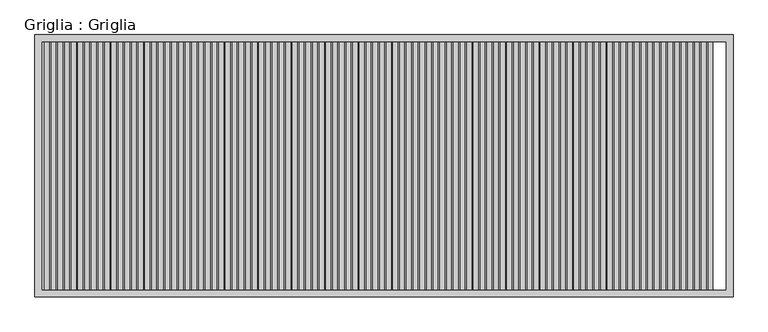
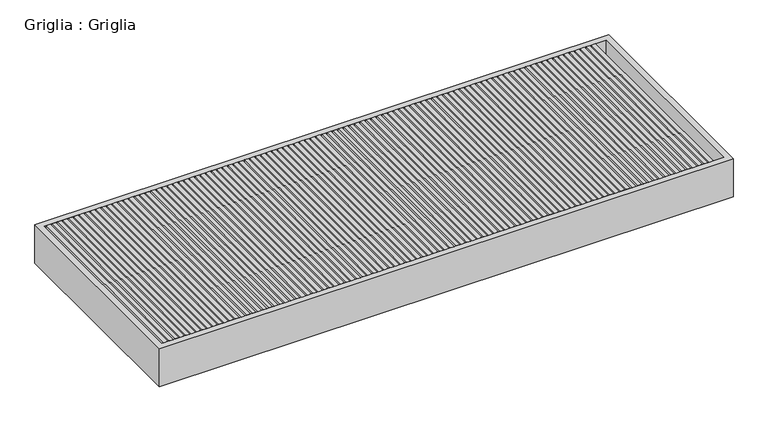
"""IFC4 building model written with IfcOpenShell, lengths in millimetres: proxy geometry, Griglia : Griglia."""

from ifc_helpers import new_model, si_unit, frame, origin, place, context, project, spatial, polyline, outline, extrude, source, transform, mapped, element, save


def griglia_griglia_b5ae9a58(model_context):
    return source(origin(), model_context, "Body", "SweptSolid", [
        extrude(outline(polyline([(-5124.9074903, 5643.2328473), (-5124.9074903, 4603.2328473), (-5144.9074903, 4603.2328473), (-5144.9074903, 5643.2328473), (-5124.9074903, 5643.2328473)])), frame((0.0, 0.0, -840.0), z_axis=(0.0, 0.0, 1.0), x_axis=(1.0, 0.0, 0.0)), (0.0, 0.0, 1.0), 40.0),
        extrude(outline(polyline([(-5152.9882983, 5643.2328473), (-5152.9882983, 4603.2328473), (-5172.9882983, 4603.2328473), (-5172.9882983, 5643.2328473), (-5152.9882983, 5643.2328473)])), frame((0.0, 0.0, -840.0), z_axis=(0.0, 0.0, 1.0), x_axis=(1.0, 0.0, 0.0)), (0.0, 0.0, 1.0), 40.0),
        extrude(outline(polyline([(-5181.0691064, 5643.2328473), (-5181.0691064, 4603.2328473), (-5201.0691064, 4603.2328473), (-5201.0691064, 5643.2328473), (-5181.0691064, 5643.2328473)])), frame((0.0, 0.0, -840.0), z_axis=(0.0, 0.0, 1.0), x_axis=(1.0, 0.0, 0.0)), (0.0, 0.0, 1.0), 40.0),
        extrude(outline(polyline([(-5209.1499145, 5643.2328473), (-5209.1499145, 4603.2328473), (-5229.1499145, 4603.2328473), (-5229.1499145, 5643.2328473), (-5209.1499145, 5643.2328473)])), frame((0.0, 0.0, -840.0), z_axis=(0.0, 0.0, 1.0), x_axis=(1.0, 0.0, 0.0)), (0.0, 0.0, 1.0), 40.0),
        extrude(outline(polyline([(-5237.2307226, 5643.2328473), (-5237.2307226, 4603.2328473), (-5257.2307226, 4603.2328473), (-5257.2307226, 5643.2328473), (-5237.2307226, 5643.2328473)])), frame((0.0, 0.0, -840.0), z_axis=(0.0, 0.0, 1.0), x_axis=(1.0, 0.0, 0.0)), (0.0, 0.0, 1.0), 40.0),
        extrude(outline(polyline([(-5265.3115307, 5643.2328473), (-5265.3115307, 4603.2328473), (-5285.3115307, 4603.2328473), (-5285.3115307, 5643.2328473), (-5265.3115307, 5643.2328473)])), frame((0.0, 0.0, -840.0), z_axis=(0.0, 0.0, 1.0), x_axis=(1.0, 0.0, 0.0)), (0.0, 0.0, 1.0), 40.0),
        extrude(outline(polyline([(-5293.3923387, 5643.2328473), (-5293.3923387, 4603.2328473), (-5313.3923387, 4603.2328473), (-5313.3923387, 5643.2328473), (-5293.3923387, 5643.2328473)])), frame((0.0, 0.0, -840.0), z_axis=(0.0, 0.0, 1.0), x_axis=(1.0, 0.0, 0.0)), (0.0, 0.0, 1.0), 40.0),
        extrude(outline(polyline([(-5321.4731468, 5643.2328473), (-5321.4731468, 4603.2328473), (-5341.4731468, 4603.2328473), (-5341.4731468, 5643.2328473), (-5321.4731468, 5643.2328473)])), frame((0.0, 0.0, -840.0), z_axis=(0.0, 0.0, 1.0), x_axis=(1.0, 0.0, 0.0)), (0.0, 0.0, 1.0), 40.0),
        extrude(outline(polyline([(-5349.5539549, 5643.2328473), (-5349.5539549, 4603.2328473), (-5369.5539549, 4603.2328473), (-5369.5539549, 5643.2328473), (-5349.5539549, 5643.2328473)])), frame((0.0, 0.0, -840.0), z_axis=(0.0, 0.0, 1.0), x_axis=(1.0, 0.0, 0.0)), (0.0, 0.0, 1.0), 40.0),
        extrude(outline(polyline([(-5377.634763, 5643.2328473), (-5377.634763, 4603.2328473), (-5397.634763, 4603.2328473), (-5397.634763, 5643.2328473), (-5377.634763, 5643.2328473)])), frame((0.0, 0.0, -840.0), z_axis=(0.0, 0.0, 1.0), x_axis=(1.0, 0.0, 0.0)), (0.0, 0.0, 1.0), 40.0),
        extrude(outline(polyline([(-5405.7155711, 5643.2328473), (-5405.7155711, 4603.2328473), (-5425.7155711, 4603.2328473), (-5425.7155711, 5643.2328473), (-5405.7155711, 5643.2328473)])), frame((0.0, 0.0, -840.0), z_axis=(0.0, 0.0, 1.0), x_axis=(1.0, 0.0, 0.0)), (0.0, 0.0, 1.0), 40.0),
        extrude(outline(polyline([(-5433.7963791, 5643.2328473), (-5433.7963791, 4603.2328473), (-5453.7963791, 4603.2328473), (-5453.7963791, 5643.2328473), (-5433.7963791, 5643.2328473)])), frame((0.0, 0.0, -840.0), z_axis=(0.0, 0.0, 1.0), x_axis=(1.0, 0.0, 0.0)), (0.0, 0.0, 1.0), 40.0),
        extrude(outline(polyline([(-5461.8771872, 5643.2328473), (-5461.8771872, 4603.2328473), (-5481.8771872, 4603.2328473), (-5481.8771872, 5643.2328473), (-5461.8771872, 5643.2328473)])), frame((0.0, 0.0, -840.0), z_axis=(0.0, 0.0, 1.0), x_axis=(1.0, 0.0, 0.0)), (0.0, 0.0, 1.0), 40.0),
        extrude(outline(polyline([(-5489.9579953, 5643.2328473), (-5489.9579953, 4603.2328473), (-5509.9579953, 4603.2328473), (-5509.9579953, 5643.2328473), (-5489.9579953, 5643.2328473)])), frame((0.0, 0.0, -840.0), z_axis=(0.0, 0.0, 1.0), x_axis=(1.0, 0.0, 0.0)), (0.0, 0.0, 1.0), 40.0),
        extrude(outline(polyline([(-5518.0388034, 5643.2328473), (-5518.0388034, 4603.2328473), (-5538.0388034, 4603.2328473), (-5538.0388034, 5643.2328473), (-5518.0388034, 5643.2328473)])), frame((0.0, 0.0, -840.0), z_axis=(0.0, 0.0, 1.0), x_axis=(1.0, 0.0, 0.0)), (0.0, 0.0, 1.0), 40.0),
        extrude(outline(polyline([(-5546.1196115, 5643.2328473), (-5546.1196115, 4603.2328473), (-5566.1196115, 4603.2328473), (-5566.1196115, 5643.2328473), (-5546.1196115, 5643.2328473)])), frame((0.0, 0.0, -840.0), z_axis=(0.0, 0.0, 1.0), x_axis=(1.0, 0.0, 0.0)), (0.0, 0.0, 1.0), 40.0),
        extrude(outline(polyline([(-5574.2004195, 5643.2328473), (-5574.2004195, 4603.2328473), (-5594.2004195, 4603.2328473), (-5594.2004195, 5643.2328473), (-5574.2004195, 5643.2328473)])), frame((0.0, 0.0, -840.0), z_axis=(0.0, 0.0, 1.0), x_axis=(1.0, 0.0, 0.0)), (0.0, 0.0, 1.0), 40.0),
        extrude(outline(polyline([(-5602.2812276, 5643.2328473), (-5602.2812276, 4603.2328473), (-5622.2812276, 4603.2328473), (-5622.2812276, 5643.2328473), (-5602.2812276, 5643.2328473)])), frame((0.0, 0.0, -840.0), z_axis=(0.0, 0.0, 1.0), x_axis=(1.0, 0.0, 0.0)), (0.0, 0.0, 1.0), 40.0),
        extrude(outline(polyline([(-5630.3620357, 5643.2328473), (-5630.3620357, 4603.2328473), (-5650.3620357, 4603.2328473), (-5650.3620357, 5643.2328473), (-5630.3620357, 5643.2328473)])), frame((0.0, 0.0, -840.0), z_axis=(0.0, 0.0, 1.0), x_axis=(1.0, 0.0, 0.0)), (0.0, 0.0, 1.0), 40.0),
        extrude(outline(polyline([(-5658.4428438, 5643.2328473), (-5658.4428438, 4603.2328473), (-5678.4428438, 4603.2328473), (-5678.4428438, 5643.2328473), (-5658.4428438, 5643.2328473)])), frame((0.0, 0.0, -840.0), z_axis=(0.0, 0.0, 1.0), x_axis=(1.0, 0.0, 0.0)), (0.0, 0.0, 1.0), 40.0),
        extrude(outline(polyline([(-5686.5236519, 5643.2328473), (-5686.5236519, 4603.2328473), (-5706.5236519, 4603.2328473), (-5706.5236519, 5643.2328473), (-5686.5236519, 5643.2328473)])), frame((0.0, 0.0, -840.0), z_axis=(0.0, 0.0, 1.0), x_axis=(1.0, 0.0, 0.0)), (0.0, 0.0, 1.0), 40.0),
        extrude(outline(polyline([(-5714.60446, 5643.2328473), (-5714.60446, 4603.2328473), (-5734.60446, 4603.2328473), (-5734.60446, 5643.2328473), (-5714.60446, 5643.2328473)])), frame((0.0, 0.0, -840.0), z_axis=(0.0, 0.0, 1.0), x_axis=(1.0, 0.0, 0.0)), (0.0, 0.0, 1.0), 40.0),
        extrude(outline(polyline([(-5742.685268, 5643.2328473), (-5742.685268, 4603.2328473), (-5762.685268, 4603.2328473), (-5762.685268, 5643.2328473), (-5742.685268, 5643.2328473)])), frame((0.0, 0.0, -840.0), z_axis=(0.0, 0.0, 1.0), x_axis=(1.0, 0.0, 0.0)), (0.0, 0.0, 1.0), 40.0),
        extrude(outline(polyline([(-5770.7660761, 5643.2328473), (-5770.7660761, 4603.2328473), (-5790.7660761, 4603.2328473), (-5790.7660761, 5643.2328473), (-5770.7660761, 5643.2328473)])), frame((0.0, 0.0, -840.0), z_axis=(0.0, 0.0, 1.0), x_axis=(1.0, 0.0, 0.0)), (0.0, 0.0, 1.0), 40.0),
        extrude(outline(polyline([(-5798.8468842, 5643.2328473), (-5798.8468842, 4603.2328473), (-5818.8468842, 4603.2328473), (-5818.8468842, 5643.2328473), (-5798.8468842, 5643.2328473)])), frame((0.0, 0.0, -840.0), z_axis=(0.0, 0.0, 1.0), x_axis=(1.0, 0.0, 0.0)), (0.0, 0.0, 1.0), 40.0),
        extrude(outline(polyline([(-5826.9276923, 5643.2328473), (-5826.9276923, 4603.2328473), (-5846.9276923, 4603.2328473), (-5846.9276923, 5643.2328473), (-5826.9276923, 5643.2328473)])), frame((0.0, 0.0, -840.0), z_axis=(0.0, 0.0, 1.0), x_axis=(1.0, 0.0, 0.0)), (0.0, 0.0, 1.0), 40.0),
        extrude(outline(polyline([(-5855.0085004, 5643.2328473), (-5855.0085004, 4603.2328473), (-5875.0085004, 4603.2328473), (-5875.0085004, 5643.2328473), (-5855.0085004, 5643.2328473)])), frame((0.0, 0.0, -840.0), z_axis=(0.0, 0.0, 1.0), x_axis=(1.0, 0.0, 0.0)), (0.0, 0.0, 1.0), 40.0),
        extrude(outline(polyline([(-5883.0893084, 5643.2328473), (-5883.0893084, 4603.2328473), (-5903.0893084, 4603.2328473), (-5903.0893084, 5643.2328473), (-5883.0893084, 5643.2328473)])), frame((0.0, 0.0, -840.0), z_axis=(0.0, 0.0, 1.0), x_axis=(1.0, 0.0, 0.0)), (0.0, 0.0, 1.0), 40.0),
        extrude(outline(polyline([(-5911.1701165, 5643.2328473), (-5911.1701165, 4603.2328473), (-5931.1701165, 4603.2328473), (-5931.1701165, 5643.2328473), (-5911.1701165, 5643.2328473)])), frame((0.0, 0.0, -840.0), z_axis=(0.0, 0.0, 1.0), x_axis=(1.0, 0.0, 0.0)), (0.0, 0.0, 1.0), 40.0),
        extrude(outline(polyline([(-5939.2509246, 5643.2328473), (-5939.2509246, 4603.2328473), (-5959.2509246, 4603.2328473), (-5959.2509246, 5643.2328473), (-5939.2509246, 5643.2328473)])), frame((0.0, 0.0, -840.0), z_axis=(0.0, 0.0, 1.0), x_axis=(1.0, 0.0, 0.0)), (0.0, 0.0, 1.0), 40.0),
        extrude(outline(polyline([(-5967.3317327, 5643.2328473), (-5967.3317327, 4603.2328473), (-5987.3317327, 4603.2328473), (-5987.3317327, 5643.2328473), (-5967.3317327, 5643.2328473)])), frame((0.0, 0.0, -840.0), z_axis=(0.0, 0.0, 1.0), x_axis=(1.0, 0.0, 0.0)), (0.0, 0.0, 1.0), 40.0),
        extrude(outline(polyline([(-5995.4125408, 5643.2328473), (-5995.4125408, 4603.2328473), (-6015.4125408, 4603.2328473), (-6015.4125408, 5643.2328473), (-5995.4125408, 5643.2328473)])), frame((0.0, 0.0, -840.0), z_axis=(0.0, 0.0, 1.0), x_axis=(1.0, 0.0, 0.0)), (0.0, 0.0, 1.0), 40.0),
        extrude(outline(polyline([(-6023.4933488, 5643.2328473), (-6023.4933488, 4603.2328473), (-6043.4933488, 4603.2328473), (-6043.4933488, 5643.2328473), (-6023.4933488, 5643.2328473)])), frame((0.0, 0.0, -840.0), z_axis=(0.0, 0.0, 1.0), x_axis=(1.0, 0.0, 0.0)), (0.0, 0.0, 1.0), 40.0),
        extrude(outline(polyline([(-6051.5741569, 5643.2328473), (-6051.5741569, 4603.2328473), (-6071.5741569, 4603.2328473), (-6071.5741569, 5643.2328473), (-6051.5741569, 5643.2328473)])), frame((0.0, 0.0, -840.0), z_axis=(0.0, 0.0, 1.0), x_axis=(1.0, 0.0, 0.0)), (0.0, 0.0, 1.0), 40.0),
        extrude(outline(polyline([(-6079.654965, 5643.2328473), (-6079.654965, 4603.2328473), (-6099.654965, 4603.2328473), (-6099.654965, 5643.2328473), (-6079.654965, 5643.2328473)])), frame((0.0, 0.0, -840.0), z_axis=(0.0, 0.0, 1.0), x_axis=(1.0, 0.0, 0.0)), (0.0, 0.0, 1.0), 40.0),
        extrude(outline(polyline([(-6107.7357731, 5643.2328473), (-6107.7357731, 4603.2328473), (-6127.7357731, 4603.2328473), (-6127.7357731, 5643.2328473), (-6107.7357731, 5643.2328473)])), frame((0.0, 0.0, -840.0), z_axis=(0.0, 0.0, 1.0), x_axis=(1.0, 0.0, 0.0)), (0.0, 0.0, 1.0), 40.0),
        extrude(outline(polyline([(-6135.8165812, 5643.2328473), (-6135.8165812, 4603.2328473), (-6155.8165812, 4603.2328473), (-6155.8165812, 5643.2328473), (-6135.8165812, 5643.2328473)])), frame((0.0, 0.0, -840.0), z_axis=(0.0, 0.0, 1.0), x_axis=(1.0, 0.0, 0.0)), (0.0, 0.0, 1.0), 40.0),
        extrude(outline(polyline([(-6163.8973892, 5643.2328473), (-6163.8973892, 4603.2328473), (-6183.8973892, 4603.2328473), (-6183.8973892, 5643.2328473), (-6163.8973892, 5643.2328473)])), frame((0.0, 0.0, -840.0), z_axis=(0.0, 0.0, 1.0), x_axis=(1.0, 0.0, 0.0)), (0.0, 0.0, 1.0), 40.0),
        extrude(outline(polyline([(-6191.9781973, 5643.2328473), (-6191.9781973, 4603.2328473), (-6211.9781973, 4603.2328473), (-6211.9781973, 5643.2328473), (-6191.9781973, 5643.2328473)])), frame((0.0, 0.0, -840.0), z_axis=(0.0, 0.0, 1.0), x_axis=(1.0, 0.0, 0.0)), (0.0, 0.0, 1.0), 40.0),
        extrude(outline(polyline([(-6220.0590054, 5643.2328473), (-6220.0590054, 4603.2328473), (-6240.0590054, 4603.2328473), (-6240.0590054, 5643.2328473), (-6220.0590054, 5643.2328473)])), frame((0.0, 0.0, -840.0), z_axis=(0.0, 0.0, 1.0), x_axis=(1.0, 0.0, 0.0)), (0.0, 0.0, 1.0), 40.0),
        extrude(outline(polyline([(-6248.1398135, 5643.2328473), (-6248.1398135, 4603.2328473), (-6268.1398135, 4603.2328473), (-6268.1398135, 5643.2328473), (-6248.1398135, 5643.2328473)])), frame((0.0, 0.0, -840.0), z_axis=(0.0, 0.0, 1.0), x_axis=(1.0, 0.0, 0.0)), (0.0, 0.0, 1.0), 40.0),
        extrude(outline(polyline([(-6276.2206216, 5643.2328473), (-6276.2206216, 4603.2328473), (-6296.2206216, 4603.2328473), (-6296.2206216, 5643.2328473), (-6276.2206216, 5643.2328473)])), frame((0.0, 0.0, -840.0), z_axis=(0.0, 0.0, 1.0), x_axis=(1.0, 0.0, 0.0)), (0.0, 0.0, 1.0), 40.0),
        extrude(outline(polyline([(-6304.3014297, 5643.2328473), (-6304.3014297, 4603.2328473), (-6324.3014297, 4603.2328473), (-6324.3014297, 5643.2328473), (-6304.3014297, 5643.2328473)])), frame((0.0, 0.0, -840.0), z_axis=(0.0, 0.0, 1.0), x_axis=(1.0, 0.0, 0.0)), (0.0, 0.0, 1.0), 40.0),
        extrude(outline(polyline([(-6332.3822377, 5643.2328473), (-6332.3822377, 4603.2328473), (-6352.3822377, 4603.2328473), (-6352.3822377, 5643.2328473), (-6332.3822377, 5643.2328473)])), frame((0.0, 0.0, -840.0), z_axis=(0.0, 0.0, 1.0), x_axis=(1.0, 0.0, 0.0)), (0.0, 0.0, 1.0), 40.0),
        extrude(outline(polyline([(-6360.4630458, 5643.2328473), (-6360.4630458, 4603.2328473), (-6380.4630458, 4603.2328473), (-6380.4630458, 5643.2328473), (-6360.4630458, 5643.2328473)])), frame((0.0, 0.0, -840.0), z_axis=(0.0, 0.0, 1.0), x_axis=(1.0, 0.0, 0.0)), (0.0, 0.0, 1.0), 40.0),
        extrude(outline(polyline([(-6388.5438539, 5643.2328473), (-6388.5438539, 4603.2328473), (-6408.5438539, 4603.2328473), (-6408.5438539, 5643.2328473), (-6388.5438539, 5643.2328473)])), frame((0.0, 0.0, -840.0), z_axis=(0.0, 0.0, 1.0), x_axis=(1.0, 0.0, 0.0)), (0.0, 0.0, 1.0), 40.0),
        extrude(outline(polyline([(-6416.624662, 5643.2328473), (-6416.624662, 4603.2328473), (-6436.624662, 4603.2328473), (-6436.624662, 5643.2328473), (-6416.624662, 5643.2328473)])), frame((0.0, 0.0, -840.0), z_axis=(0.0, 0.0, 1.0), x_axis=(1.0, 0.0, 0.0)), (0.0, 0.0, 1.0), 40.0),
        extrude(outline(polyline([(-6444.7054701, 5643.2328473), (-6444.7054701, 4603.2328473), (-6464.7054701, 4603.2328473), (-6464.7054701, 5643.2328473), (-6444.7054701, 5643.2328473)])), frame((0.0, 0.0, -840.0), z_axis=(0.0, 0.0, 1.0), x_axis=(1.0, 0.0, 0.0)), (0.0, 0.0, 1.0), 40.0),
        extrude(outline(polyline([(-6472.7862781, 5643.2328473), (-6472.7862781, 4603.2328473), (-6492.7862781, 4603.2328473), (-6492.7862781, 5643.2328473), (-6472.7862781, 5643.2328473)])), frame((0.0, 0.0, -840.0), z_axis=(0.0, 0.0, 1.0), x_axis=(1.0, 0.0, 0.0)), (0.0, 0.0, 1.0), 40.0),
        extrude(outline(polyline([(-6500.8670862, 5643.2328473), (-6500.8670862, 4603.2328473), (-6520.8670862, 4603.2328473), (-6520.8670862, 5643.2328473), (-6500.8670862, 5643.2328473)])), frame((0.0, 0.0, -840.0), z_axis=(0.0, 0.0, 1.0), x_axis=(1.0, 0.0, 0.0)), (0.0, 0.0, 1.0), 40.0),
        extrude(outline(polyline([(-6528.9478943, 5643.2328473), (-6528.9478943, 4603.2328473), (-6548.9478943, 4603.2328473), (-6548.9478943, 5643.2328473), (-6528.9478943, 5643.2328473)])), frame((0.0, 0.0, -840.0), z_axis=(0.0, 0.0, 1.0), x_axis=(1.0, 0.0, 0.0)), (0.0, 0.0, 1.0), 40.0),
        extrude(outline(polyline([(-6557.0287024, 5643.2328473), (-6557.0287024, 4603.2328473), (-6577.0287024, 4603.2328473), (-6577.0287024, 5643.2328473), (-6557.0287024, 5643.2328473)])), frame((0.0, 0.0, -840.0), z_axis=(0.0, 0.0, 1.0), x_axis=(1.0, 0.0, 0.0)), (0.0, 0.0, 1.0), 40.0),
        extrude(outline(polyline([(-6585.1095105, 5643.2328473), (-6585.1095105, 4603.2328473), (-6605.1095105, 4603.2328473), (-6605.1095105, 5643.2328473), (-6585.1095105, 5643.2328473)])), frame((0.0, 0.0, -840.0), z_axis=(0.0, 0.0, 1.0), x_axis=(1.0, 0.0, 0.0)), (0.0, 0.0, 1.0), 40.0),
        extrude(outline(polyline([(-6613.1903185, 5643.2328473), (-6613.1903185, 4603.2328473), (-6633.1903185, 4603.2328473), (-6633.1903185, 5643.2328473), (-6613.1903185, 5643.2328473)])), frame((0.0, 0.0, -840.0), z_axis=(0.0, 0.0, 1.0), x_axis=(1.0, 0.0, 0.0)), (0.0, 0.0, 1.0), 40.0),
        extrude(outline(polyline([(-6641.2711266, 5643.2328473), (-6641.2711266, 4603.2328473), (-6661.2711266, 4603.2328473), (-6661.2711266, 5643.2328473), (-6641.2711266, 5643.2328473)])), frame((0.0, 0.0, -840.0), z_axis=(0.0, 0.0, 1.0), x_axis=(1.0, 0.0, 0.0)), (0.0, 0.0, 1.0), 40.0),
        extrude(outline(polyline([(-6669.3519347, 5643.2328473), (-6669.3519347, 4603.2328473), (-6689.3519347, 4603.2328473), (-6689.3519347, 5643.2328473), (-6669.3519347, 5643.2328473)])), frame((0.0, 0.0, -840.0), z_axis=(0.0, 0.0, 1.0), x_axis=(1.0, 0.0, 0.0)), (0.0, 0.0, 1.0), 40.0),
        extrude(outline(polyline([(-6697.4327428, 5643.2328473), (-6697.4327428, 4603.2328473), (-6717.4327428, 4603.2328473), (-6717.4327428, 5643.2328473), (-6697.4327428, 5643.2328473)])), frame((0.0, 0.0, -840.0), z_axis=(0.0, 0.0, 1.0), x_axis=(1.0, 0.0, 0.0)), (0.0, 0.0, 1.0), 40.0),
        extrude(outline(polyline([(-6725.5135509, 5643.2328473), (-6725.5135509, 4603.2328473), (-6745.5135509, 4603.2328473), (-6745.5135509, 5643.2328473), (-6725.5135509, 5643.2328473)])), frame((0.0, 0.0, -840.0), z_axis=(0.0, 0.0, 1.0), x_axis=(1.0, 0.0, 0.0)), (0.0, 0.0, 1.0), 40.0),
        extrude(outline(polyline([(-6753.5943589, 5643.2328473), (-6753.5943589, 4603.2328473), (-6773.5943589, 4603.2328473), (-6773.5943589, 5643.2328473), (-6753.5943589, 5643.2328473)])), frame((0.0, 0.0, -840.0), z_axis=(0.0, 0.0, 1.0), x_axis=(1.0, 0.0, 0.0)), (0.0, 0.0, 1.0), 40.0),
        extrude(outline(polyline([(-6781.675167, 5643.2328473), (-6781.675167, 4603.2328473), (-6801.675167, 4603.2328473), (-6801.675167, 5643.2328473), (-6781.675167, 5643.2328473)])), frame((0.0, 0.0, -840.0), z_axis=(0.0, 0.0, 1.0), x_axis=(1.0, 0.0, 0.0)), (0.0, 0.0, 1.0), 40.0),
        extrude(outline(polyline([(-6809.7559751, 5643.2328473), (-6809.7559751, 4603.2328473), (-6829.7559751, 4603.2328473), (-6829.7559751, 5643.2328473), (-6809.7559751, 5643.2328473)])), frame((0.0, 0.0, -840.0), z_axis=(0.0, 0.0, 1.0), x_axis=(1.0, 0.0, 0.0)), (0.0, 0.0, 1.0), 40.0),
        extrude(outline(polyline([(-6837.8367832, 5643.2328473), (-6837.8367832, 4603.2328473), (-6857.8367832, 4603.2328473), (-6857.8367832, 5643.2328473), (-6837.8367832, 5643.2328473)])), frame((0.0, 0.0, -840.0), z_axis=(0.0, 0.0, 1.0), x_axis=(1.0, 0.0, 0.0)), (0.0, 0.0, 1.0), 40.0),
        extrude(outline(polyline([(-6865.9175913, 5643.2328473), (-6865.9175913, 4603.2328473), (-6885.9175913, 4603.2328473), (-6885.9175913, 5643.2328473), (-6865.9175913, 5643.2328473)])), frame((0.0, 0.0, -840.0), z_axis=(0.0, 0.0, 1.0), x_axis=(1.0, 0.0, 0.0)), (0.0, 0.0, 1.0), 40.0),
        extrude(outline(polyline([(-6893.9983993, 5643.2328473), (-6893.9983993, 4603.2328473), (-6913.9983993, 4603.2328473), (-6913.9983993, 5643.2328473), (-6893.9983993, 5643.2328473)])), frame((0.0, 0.0, -840.0), z_axis=(0.0, 0.0, 1.0), x_axis=(1.0, 0.0, 0.0)), (0.0, 0.0, 1.0), 40.0),
        extrude(outline(polyline([(-6922.0792074, 5643.2328473), (-6922.0792074, 4603.2328473), (-6942.0792074, 4603.2328473), (-6942.0792074, 5643.2328473), (-6922.0792074, 5643.2328473)])), frame((0.0, 0.0, -840.0), z_axis=(0.0, 0.0, 1.0), x_axis=(1.0, 0.0, 0.0)), (0.0, 0.0, 1.0), 40.0),
        extrude(outline(polyline([(-6950.1600155, 5643.2328473), (-6950.1600155, 4603.2328473), (-6970.1600155, 4603.2328473), (-6970.1600155, 5643.2328473), (-6950.1600155, 5643.2328473)])), frame((0.0, 0.0, -840.0), z_axis=(0.0, 0.0, 1.0), x_axis=(1.0, 0.0, 0.0)), (0.0, 0.0, 1.0), 40.0),
        extrude(outline(polyline([(-6978.2408236, 5643.2328473), (-6978.2408236, 4603.2328473), (-6998.2408236, 4603.2328473), (-6998.2408236, 5643.2328473), (-6978.2408236, 5643.2328473)])), frame((0.0, 0.0, -840.0), z_axis=(0.0, 0.0, 1.0), x_axis=(1.0, 0.0, 0.0)), (0.0, 0.0, 1.0), 40.0),
        extrude(outline(polyline([(-7006.3216317, 5643.2328473), (-7006.3216317, 4603.2328473), (-7026.3216317, 4603.2328473), (-7026.3216317, 5643.2328473), (-7006.3216317, 5643.2328473)])), frame((0.0, 0.0, -840.0), z_axis=(0.0, 0.0, 1.0), x_axis=(1.0, 0.0, 0.0)), (0.0, 0.0, 1.0), 40.0),
        extrude(outline(polyline([(-7034.4024398, 5643.2328473), (-7034.4024398, 4603.2328473), (-7054.4024398, 4603.2328473), (-7054.4024398, 5643.2328473), (-7034.4024398, 5643.2328473)])), frame((0.0, 0.0, -840.0), z_axis=(0.0, 0.0, 1.0), x_axis=(1.0, 0.0, 0.0)), (0.0, 0.0, 1.0), 40.0),
        extrude(outline(polyline([(-7062.4832478, 5643.2328473), (-7062.4832478, 4603.2328473), (-7082.4832478, 4603.2328473), (-7082.4832478, 5643.2328473), (-7062.4832478, 5643.2328473)])), frame((0.0, 0.0, -840.0), z_axis=(0.0, 0.0, 1.0), x_axis=(1.0, 0.0, 0.0)), (0.0, 0.0, 1.0), 40.0),
        extrude(outline(polyline([(-7090.5640559, 5643.2328473), (-7090.5640559, 4603.2328473), (-7110.5640559, 4603.2328473), (-7110.5640559, 5643.2328473), (-7090.5640559, 5643.2328473)])), frame((0.0, 0.0, -840.0), z_axis=(0.0, 0.0, 1.0), x_axis=(1.0, 0.0, 0.0)), (0.0, 0.0, 1.0), 40.0),
        extrude(outline(polyline([(-7118.644864, 5643.2328473), (-7118.644864, 4603.2328473), (-7138.644864, 4603.2328473), (-7138.644864, 5643.2328473), (-7118.644864, 5643.2328473)])), frame((0.0, 0.0, -840.0), z_axis=(0.0, 0.0, 1.0), x_axis=(1.0, 0.0, 0.0)), (0.0, 0.0, 1.0), 40.0),
        extrude(outline(polyline([(-7146.7256721, 5643.2328473), (-7146.7256721, 4603.2328473), (-7166.7256721, 4603.2328473), (-7166.7256721, 5643.2328473), (-7146.7256721, 5643.2328473)])), frame((0.0, 0.0, -840.0), z_axis=(0.0, 0.0, 1.0), x_axis=(1.0, 0.0, 0.0)), (0.0, 0.0, 1.0), 40.0),
        extrude(outline(polyline([(-7174.8064802, 5643.2328473), (-7174.8064802, 4603.2328473), (-7194.8064802, 4603.2328473), (-7194.8064802, 5643.2328473), (-7174.8064802, 5643.2328473)])), frame((0.0, 0.0, -840.0), z_axis=(0.0, 0.0, 1.0), x_axis=(1.0, 0.0, 0.0)), (0.0, 0.0, 1.0), 40.0),
        extrude(outline(polyline([(-7202.8872882, 5643.2328473), (-7202.8872882, 4603.2328473), (-7222.8872882, 4603.2328473), (-7222.8872882, 5643.2328473), (-7202.8872882, 5643.2328473)])), frame((0.0, 0.0, -840.0), z_axis=(0.0, 0.0, 1.0), x_axis=(1.0, 0.0, 0.0)), (0.0, 0.0, 1.0), 40.0),
        extrude(outline(polyline([(-7230.9680963, 5643.2328473), (-7230.9680963, 4603.2328473), (-7250.9680963, 4603.2328473), (-7250.9680963, 5643.2328473), (-7230.9680963, 5643.2328473)])), frame((0.0, 0.0, -840.0), z_axis=(0.0, 0.0, 1.0), x_axis=(1.0, 0.0, 0.0)), (0.0, 0.0, 1.0), 40.0),
        extrude(outline(polyline([(-7259.0489044, 5643.2328473), (-7259.0489044, 4603.2328473), (-7279.0489044, 4603.2328473), (-7279.0489044, 5643.2328473), (-7259.0489044, 5643.2328473)])), frame((0.0, 0.0, -840.0), z_axis=(0.0, 0.0, 1.0), x_axis=(1.0, 0.0, 0.0)), (0.0, 0.0, 1.0), 40.0),
        extrude(outline(polyline([(-7287.1297125, 5643.2328473), (-7287.1297125, 4603.2328473), (-7307.1297125, 4603.2328473), (-7307.1297125, 5643.2328473), (-7287.1297125, 5643.2328473)])), frame((0.0, 0.0, -840.0), z_axis=(0.0, 0.0, 1.0), x_axis=(1.0, 0.0, 0.0)), (0.0, 0.0, 1.0), 40.0),
        extrude(outline(polyline([(-7315.2105206, 5643.2328473), (-7315.2105206, 4603.2328473), (-7335.2105206, 4603.2328473), (-7335.2105206, 5643.2328473), (-7315.2105206, 5643.2328473)])), frame((0.0, 0.0, -840.0), z_axis=(0.0, 0.0, 1.0), x_axis=(1.0, 0.0, 0.0)), (0.0, 0.0, 1.0), 40.0),
        extrude(outline(polyline([(-7343.2913286, 5643.2328473), (-7343.2913286, 4603.2328473), (-7363.2913286, 4603.2328473), (-7363.2913286, 5643.2328473), (-7343.2913286, 5643.2328473)])), frame((0.0, 0.0, -840.0), z_axis=(0.0, 0.0, 1.0), x_axis=(1.0, 0.0, 0.0)), (0.0, 0.0, 1.0), 40.0),
        extrude(outline(polyline([(-7371.3721367, 5643.2328473), (-7371.3721367, 4603.2328473), (-7391.3721367, 4603.2328473), (-7391.3721367, 5643.2328473), (-7371.3721367, 5643.2328473)])), frame((0.0, 0.0, -840.0), z_axis=(0.0, 0.0, 1.0), x_axis=(1.0, 0.0, 0.0)), (0.0, 0.0, 1.0), 40.0),
        extrude(outline(polyline([(-7399.4529448, 5643.2328473), (-7399.4529448, 4603.2328473), (-7419.4529448, 4603.2328473), (-7419.4529448, 5643.2328473), (-7399.4529448, 5643.2328473)])), frame((0.0, 0.0, -840.0), z_axis=(0.0, 0.0, 1.0), x_axis=(1.0, 0.0, 0.0)), (0.0, 0.0, 1.0), 40.0),
        extrude(outline(polyline([(-7427.5337529, 5643.2328473), (-7427.5337529, 4603.2328473), (-7447.5337529, 4603.2328473), (-7447.5337529, 5643.2328473), (-7427.5337529, 5643.2328473)])), frame((0.0, 0.0, -840.0), z_axis=(0.0, 0.0, 1.0), x_axis=(1.0, 0.0, 0.0)), (0.0, 0.0, 1.0), 40.0),
        extrude(outline(polyline([(-7455.614561, 5643.2328473), (-7455.614561, 4603.2328473), (-7475.614561, 4603.2328473), (-7475.614561, 5643.2328473), (-7455.614561, 5643.2328473)])), frame((0.0, 0.0, -840.0), z_axis=(0.0, 0.0, 1.0), x_axis=(1.0, 0.0, 0.0)), (0.0, 0.0, 1.0), 40.0),
        extrude(outline(polyline([(-7483.695369, 5643.2328473), (-7483.695369, 4603.2328473), (-7503.695369, 4603.2328473), (-7503.695369, 5643.2328473), (-7483.695369, 5643.2328473)])), frame((0.0, 0.0, -840.0), z_axis=(0.0, 0.0, 1.0), x_axis=(1.0, 0.0, 0.0)), (0.0, 0.0, 1.0), 40.0),
        extrude(outline(polyline([(-7511.7761771, 5643.2328473), (-7511.7761771, 4603.2328473), (-7531.7761771, 4603.2328473), (-7531.7761771, 5643.2328473), (-7511.7761771, 5643.2328473)])), frame((0.0, 0.0, -840.0), z_axis=(0.0, 0.0, 1.0), x_axis=(1.0, 0.0, 0.0)), (0.0, 0.0, 1.0), 40.0),
        extrude(outline(polyline([(-7539.8569852, 5643.2328473), (-7539.8569852, 4603.2328473), (-7559.8569852, 4603.2328473), (-7559.8569852, 5643.2328473), (-7539.8569852, 5643.2328473)])), frame((0.0, 0.0, -840.0), z_axis=(0.0, 0.0, 1.0), x_axis=(1.0, 0.0, 0.0)), (0.0, 0.0, 1.0), 40.0),
        extrude(outline(polyline([(-7567.9377933, 5643.2328473), (-7567.9377933, 4603.2328473), (-7587.9377933, 4603.2328473), (-7587.9377933, 5643.2328473), (-7567.9377933, 5643.2328473)])), frame((0.0, 0.0, -840.0), z_axis=(0.0, 0.0, 1.0), x_axis=(1.0, 0.0, 0.0)), (0.0, 0.0, 1.0), 40.0),
        extrude(outline(polyline([(-7596.0186014, 5643.2328473), (-7596.0186014, 4603.2328473), (-7616.0186014, 4603.2328473), (-7616.0186014, 5643.2328473), (-7596.0186014, 5643.2328473)])), frame((0.0, 0.0, -840.0), z_axis=(0.0, 0.0, 1.0), x_axis=(1.0, 0.0, 0.0)), (0.0, 0.0, 1.0), 40.0),
        extrude(outline(polyline([(-7624.0994094, 5643.2328473), (-7624.0994094, 4603.2328473), (-7644.0994094, 4603.2328473), (-7644.0994094, 5643.2328473), (-7624.0994094, 5643.2328473)])), frame((0.0, 0.0, -840.0), z_axis=(0.0, 0.0, 1.0), x_axis=(1.0, 0.0, 0.0)), (0.0, 0.0, 1.0), 40.0),
        extrude(outline(polyline([(-7652.1802175, 5643.2328473), (-7652.1802175, 4603.2328473), (-7672.1802175, 4603.2328473), (-7672.1802175, 5643.2328473), (-7652.1802175, 5643.2328473)])), frame((0.0, 0.0, -840.0), z_axis=(0.0, 0.0, 1.0), x_axis=(1.0, 0.0, 0.0)), (0.0, 0.0, 1.0), 40.0),
        extrude(outline(polyline([(-7680.2610256, 5643.2328473), (-7680.2610256, 4603.2328473), (-7700.2610256, 4603.2328473), (-7700.2610256, 5643.2328473), (-7680.2610256, 5643.2328473)])), frame((0.0, 0.0, -840.0), z_axis=(0.0, 0.0, 1.0), x_axis=(1.0, 0.0, 0.0)), (0.0, 0.0, 1.0), 40.0),
        extrude(outline(polyline([(-7708.3418337, 5643.2328473), (-7708.3418337, 4603.2328473), (-7728.3418337, 4603.2328473), (-7728.3418337, 5643.2328473), (-7708.3418337, 5643.2328473)])), frame((0.0, 0.0, -840.0), z_axis=(0.0, 0.0, 1.0), x_axis=(1.0, 0.0, 0.0)), (0.0, 0.0, 1.0), 40.0),
        extrude(outline(polyline([(-7736.4226418, 5643.2328473), (-7736.4226418, 4603.2328473), (-7756.4226418, 4603.2328473), (-7756.4226418, 5643.2328473), (-7736.4226418, 5643.2328473)])), frame((0.0, 0.0, -840.0), z_axis=(0.0, 0.0, 1.0), x_axis=(1.0, 0.0, 0.0)), (0.0, 0.0, 1.0), 40.0),
        extrude(outline(polyline([(-7764.5034499, 5643.2328473), (-7764.5034499, 4603.2328473), (-7784.5034499, 4603.2328473), (-7784.5034499, 5643.2328473), (-7764.5034499, 5643.2328473)])), frame((0.0, 0.0, -840.0), z_axis=(0.0, 0.0, 1.0), x_axis=(1.0, 0.0, 0.0)), (0.0, 0.0, 1.0), 40.0),
        extrude(outline(polyline([(-7792.5842579, 5643.2328473), (-7792.5842579, 4603.2328473), (-7812.5842579, 4603.2328473), (-7812.5842579, 5643.2328473), (-7792.5842579, 5643.2328473)])), frame((0.0, 0.0, -840.0), z_axis=(0.0, 0.0, 1.0), x_axis=(1.0, 0.0, 0.0)), (0.0, 0.0, 1.0), 40.0),
        extrude(outline(polyline([(-7820.665066, 5643.2328473), (-7820.665066, 4603.2328473), (-7840.665066, 4603.2328473), (-7840.665066, 5643.2328473), (-7820.665066, 5643.2328473)])), frame((0.0, 0.0, -840.0), z_axis=(0.0, 0.0, 1.0), x_axis=(1.0, 0.0, 0.0)), (0.0, 0.0, 1.0), 40.0),
        extrude(outline(polyline([(-7848.7458741, 5643.2328473), (-7848.7458741, 4603.2328473), (-7868.7458741, 4603.2328473), (-7868.7458741, 5643.2328473), (-7848.7458741, 5643.2328473)])), frame((0.0, 0.0, -840.0), z_axis=(0.0, 0.0, 1.0), x_axis=(1.0, 0.0, 0.0)), (0.0, 0.0, 1.0), 40.0),
        extrude(outline(polyline([(-5096.8266822, 5643.2328473), (-5096.8266822, 4603.2328473), (-5116.8266822, 4603.2328473), (-5116.8266822, 5643.2328473), (-5096.8266822, 5643.2328473)])), frame((0.0, 0.0, -840.0), z_axis=(0.0, 0.0, 1.0), x_axis=(1.0, 0.0, 0.0)), (0.0, 0.0, 1.0), 40.0),
        extrude(outline(polyline([(-7876.8266822, 5643.2328473), (-7876.8266822, 4603.2328473), (-7896.8266822, 4603.2328473), (-7896.8266822, 5643.2328473), (-7876.8266822, 5643.2328473)])), frame((0.0, 0.0, -840.0), z_axis=(0.0, 0.0, 1.0), x_axis=(1.0, 0.0, 0.0)), (0.0, 0.0, 1.0), 40.0),
        extrude(outline(polyline([(-5011.8266822, 5673.2328473), (-5011.8266822, 4573.2328473), (-7936.8266822, 4573.2328473), (-7936.8266822, 5673.2328473), (-5011.8266822, 5673.2328473)]), holes=[polyline([(-5041.8266822, 5643.2328473), (-7906.8266822, 5643.2328473), (-7906.8266822, 4603.2328473), (-5041.8266822, 4603.2328473), (-5041.8266822, 5643.2328473)])]), frame((0.0, 0.0, -1006.4045758), z_axis=(0.0, 0.0, 1.0), x_axis=(1.0, 0.0, 0.0)), (0.0, 0.0, 1.0), 206.4045758),
    ])


if __name__ == "__main__":
    model = new_model("IFC4")
    model_context = context("Model", 3, world=origin())
    ifc_project = project(units=[si_unit("LENGTHUNIT", "METRE", prefix="MILLI")], contexts=[model_context])
    site = spatial("IfcSite", under=ifc_project)
    building = spatial("IfcBuilding", under=site)
    placement = place(None, origin())
    griglia_griglia_shape = griglia_griglia_b5ae9a58(model_context)
    element("IfcBuildingElementProxy", 1, Name="Griglia : Griglia", ObjectType="Griglia : Griglia", at=placement, inside=building, context=model_context, shape_type="MappedRepresentation", body=[
        mapped(griglia_griglia_shape, transform((0.0, 0.0, 0.0), x_axis=(1.0, 0.0, 0.0), y_axis=(0.0, 1.0, 0.0), z_axis=(0.0, 0.0, 1.0))),
    ])
    save(model, "model.ifc")
